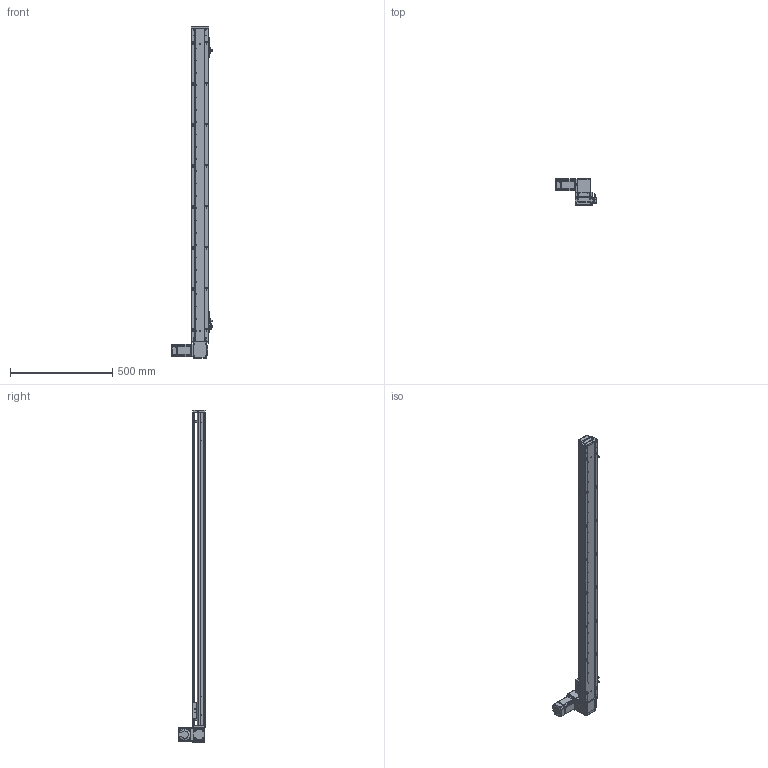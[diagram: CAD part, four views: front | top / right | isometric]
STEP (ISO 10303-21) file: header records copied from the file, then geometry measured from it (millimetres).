
FILE_DESCRIPTION (( 'STEP AP203' ), '1' );
FILE_NAME ('RY80-T-300-UL.SLDASM_1350.step', '2021-03-01T02:17:45', ( '盈信电脑' ), ( '东莞市道滘镇水果街19号' ), 'SwSTEP 2.0', 'SolidWorks 2012', '' );
FILE_SCHEMA (( 'CONFIG_CONTROL_DESIGN' ));
Length unit declared in the file: millimetre
Products named in the file (19): 672嫖萇羲壽假蚾釱; RY80-T綴裔啣; 覜茼ん672; RY80-T-300-UL倰第奻裔啣_1350; RY80-T肮祭謫臏賑輸; RY80-T-300-UL倰第菁釱_1350; RY80-T-翋肮祭謫釱; RY80-T肮祭湍揤輸1; RY80-T肮祭湍揤輸2; RY80俋离覜茼え; RY80-T-300-UL.SLDASM_1350; RY80-T-上下折同步轮盖板; RY80-T肮祭謫奻殏俋欶; RY80-T-M4蹟翐2; RY80-T粣創揤踡輸; 1; 滅袉蝶18-10; RY80-T翋肮祭謫裔啣; RY80-T萇儂假蚾啣
Assembly tree (24 placements, depth 2):
  RY80-T-300-UL.SLDASM_1350
    RY80-T-300-UL倰第菁釱_1350
    RY80-T肮祭謫臏賑輸
    RY80-T-300-UL倰第奻裔啣_1350
    RY80-T綴裔啣
    672嫖萇羲壽假蚾釱  x2
    覜茼ん672  x3
    RY80俋离覜茼え
    RY80-T-翋肮祭謫釱
    RY80-T肮祭湍揤輸1
    RY80-T肮祭湍揤輸2
    RY80-T萇儂假蚾啣
    RY80-T粣創揤踡輸  x2
    滅袉蝶18-10  x2
    RY80-T翋肮祭謫裔啣
    1
    RY80-T肮祭謫奻殏俋欶
    RY80-T-M4蹟翐2  x2
    RY80-T-上下折同步轮盖板
Bounding box: 198.7 x 130.5 x 1620 mm (x, y, z)
Volume: 2647970.8 mm3; surface area: 1120148.6 mm2
Topology: 24 solids, 24 shells, 2557 faces, 7048 edges, 4577 vertices
Faces by surface type: plane 1354, cylinder 997, cone 150, bspline 56
Entity records: 80339 total; most frequent: CARTESIAN_POINT 19672, ORIENTED_EDGE 12480, DIRECTION 11712, EDGE_CURVE 6240, VERTEX_POINT 4098, AXIS2_PLACEMENT_3D 3954, VECTOR 3804, LINE 3804
